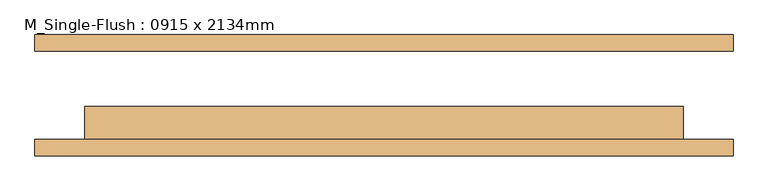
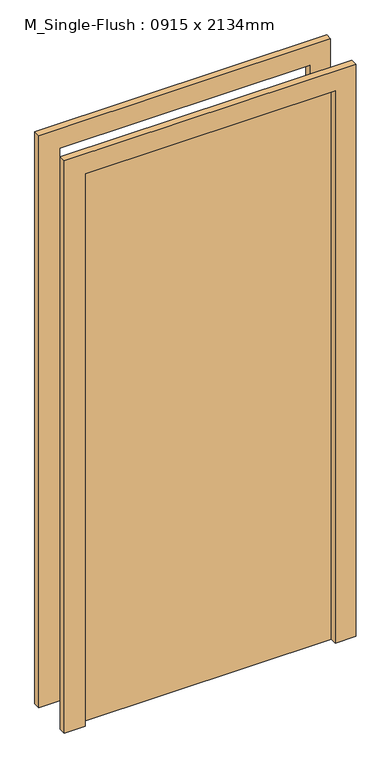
"""IFC4 building model written with IfcOpenShell, lengths in millimetres: door geometry, M_Single-Flush : 0915 x 2134mm."""

from ifc_helpers import new_model, si_unit, frame, origin, origin_with_axes, place, context, project, spatial, polyline, outline, extrude, source, transform, mapped, element, save


def m_single_flush_0915_x_2134mm_ab9b6334(model_context):
    return source(origin(), model_context, "Body", "SweptSolid", [
        extrude(outline(polyline([(2210.0, -533.5), (0.0, -533.5), (0.0, -457.5), (2134.0, -457.5), (2134.0, 457.5), (0.0, 457.5), (0.0, 533.5), (2210.0, 533.5), (2210.0, -533.5)])), frame((0.0, -92.75, 0.0), z_axis=(0.0, 1.0, 0.0), x_axis=(0.0, 0.0, 1.0)), (0.0, 0.0, 1.0), 25.0),
        extrude(outline(polyline([(2210.0, 533.5), (2210.0, -533.5), (0.0, -533.5), (0.0, -457.5), (2134.0, -457.5), (2134.0, 457.5), (0.0, 457.5), (0.0, 533.5), (2210.0, 533.5)])), frame((0.0, 67.75, 0.0), z_axis=(0.0, 1.0, 0.0), x_axis=(0.0, 0.0, 1.0)), (0.0, 0.0, 1.0), 25.0),
        extrude(outline(polyline([(457.5, -16.75), (457.5, -67.75), (-457.5, -67.75), (-457.5, -16.75), (457.5, -16.75)])), origin_with_axes(), (0.0, 0.0, 1.0), 2134.0),
    ])


if __name__ == "__main__":
    model = new_model("IFC4")
    model_context = context("Model", 3, world=origin())
    ifc_project = project(units=[si_unit("LENGTHUNIT", "METRE", prefix="MILLI")], contexts=[model_context])
    site = spatial("IfcSite", under=ifc_project)
    building = spatial("IfcBuilding", under=site)
    placement = place(None, origin())
    m_single_flush_0915_x_2134mm_shape = m_single_flush_0915_x_2134mm_ab9b6334(model_context)
    element("IfcDoor", 1, ObjectType="M_Single-Flush : 0915 x 2134mm", at=placement, inside=building, context=model_context, shape_type="MappedRepresentation", body=[
        mapped(m_single_flush_0915_x_2134mm_shape, transform((0.0, 0.0, 0.0), x_axis=(1.0, 0.0, 0.0), y_axis=(0.0, 1.0, 0.0), z_axis=(0.0, 0.0, 1.0))),
    ])
    save(model, "model.ifc")
